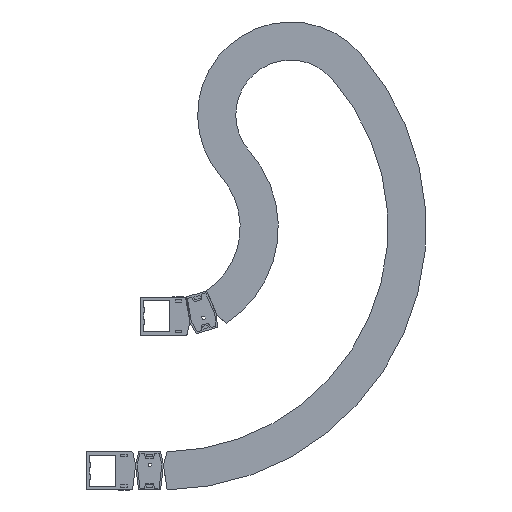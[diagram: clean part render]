
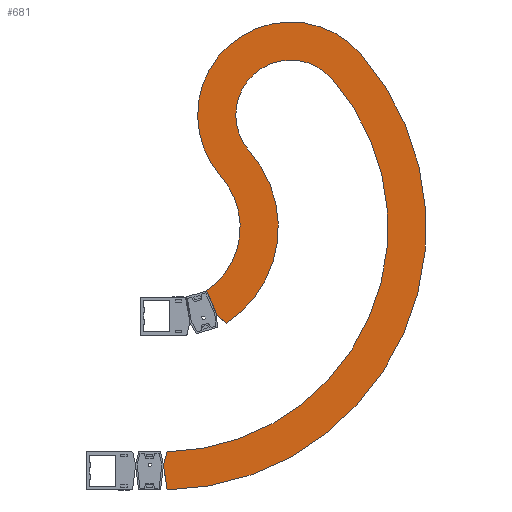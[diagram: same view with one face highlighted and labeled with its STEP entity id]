
A CAD part, front view. The second image highlights one B-rep face of the part: STEP entity #681.
In plain terms, the highlighted planar face has unit normal (0, -1, 0).
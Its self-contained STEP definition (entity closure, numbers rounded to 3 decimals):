
#681 = ADVANCED_FACE( '', ( #1446 ), #1447, .F. );
#1446 = FACE_OUTER_BOUND( '', #2306, .T. );
#1447 = PLANE( '', #2307 );
#2306 = EDGE_LOOP( '', ( #4167, #4168, #4169, #4170, #4171, #4172, #4173, #4174, #4175, #4176 ) );
#2307 = AXIS2_PLACEMENT_3D( '', #4177, #4178, #4179 );
#4167 = ORIENTED_EDGE( '', *, *, #5668, .F. );
#4168 = ORIENTED_EDGE( '', *, *, #5996, .F. );
#4169 = ORIENTED_EDGE( '', *, *, #5997, .F. );
#4170 = ORIENTED_EDGE( '', *, *, #5998, .T. );
#4171 = ORIENTED_EDGE( '', *, *, #5727, .F. );
#4172 = ORIENTED_EDGE( '', *, *, #5999, .F. );
#4173 = ORIENTED_EDGE( '', *, *, #5541, .F. );
#4174 = ORIENTED_EDGE( '', *, *, #6000, .T. );
#4175 = ORIENTED_EDGE( '', *, *, #6001, .T. );
#4176 = ORIENTED_EDGE( '', *, *, #6002, .F. );
#4177 = CARTESIAN_POINT( '', ( 0., -122.5, 0. ) );
#4178 = DIRECTION( '', ( 0., 1., 0. ) );
#4179 = DIRECTION( '', ( 0., 0., 1. ) );
#5541 = EDGE_CURVE( '', #6814, #6815, #6816, .T. );
#5668 = EDGE_CURVE( '', #7017, #7019, #7020, .T. );
#5727 = EDGE_CURVE( '', #7106, #7108, #7109, .T. );
#5996 = EDGE_CURVE( '', #7487, #7017, #7488, .T. );
#5997 = EDGE_CURVE( '', #7489, #7487, #7490, .T. );
#5998 = EDGE_CURVE( '', #7489, #7108, #7491, .T. );
#5999 = EDGE_CURVE( '', #6815, #7106, #7492, .T. );
#6000 = EDGE_CURVE( '', #6814, #7493, #7494, .T. );
#6001 = EDGE_CURVE( '', #7493, #7495, #7496, .T. );
#6002 = EDGE_CURVE( '', #7019, #7495, #7497, .T. );
#6814 = VERTEX_POINT( '', #8586 );
#6815 = VERTEX_POINT( '', #8587 );
#6816 = CIRCLE( '', #8588, 247. );
#7017 = VERTEX_POINT( '', #8863 );
#7019 = VERTEX_POINT( '', #8866 );
#7020 = LINE( '', #8867, #8868 );
#7106 = VERTEX_POINT( '', #8987 );
#7108 = VERTEX_POINT( '', #8990 );
#7109 = LINE( '', #8991, #8992 );
#7487 = VERTEX_POINT( '', #9548 );
#7488 = CIRCLE( '', #9549, 565. );
#7489 = VERTEX_POINT( '', #9550 );
#7490 = CIRCLE( '', #9551, 200. );
#7491 = CIRCLE( '', #9552, 165. );
#7492 = LINE( '', #9553, #9554 );
#7493 = VERTEX_POINT( '', #9555 );
#7494 = CIRCLE( '', #9556, 118. );
#7495 = VERTEX_POINT( '', #9557 );
#7496 = CIRCLE( '', #9558, 483. );
#7497 = LINE( '', #9559, #9560 );
#8586 = CARTESIAN_POINT( '', ( 185.08, -122.5, 163.567 ) );
#8587 = CARTESIAN_POINT( '', ( 135.342, -122.5, -206.619 ) );
#8588 = AXIS2_PLACEMENT_3D( '', #10258, #10259, #10260 );
#8863 = CARTESIAN_POINT( '', ( 7.873, -122.5, -564.945 ) );
#8866 = CARTESIAN_POINT( '', ( 0., -122.5, -511.2 ) );
#8867 = CARTESIAN_POINT( '', ( 7.873, -122.5, -564.945 ) );
#8868 = VECTOR( '', #10405, 1000. );
#8987 = CARTESIAN_POINT( '', ( 114.074, -122.5, -186.71 ) );
#8990 = CARTESIAN_POINT( '', ( 92.675, -122.5, -136.515 ) );
#8991 = CARTESIAN_POINT( '', ( 114.074, -122.5, -186.71 ) );
#8992 = VECTOR( '', #10461, 1000. );
#9548 = CARTESIAN_POINT( '', ( 423.362, -122.5, 374.152 ) );
#9549 = AXIS2_PLACEMENT_3D( '', #10712, #10713, #10714 );
#9550 = CARTESIAN_POINT( '', ( 123.637, -122.5, 109.266 ) );
#9551 = AXIS2_PLACEMENT_3D( '', #10715, #10716, #10717 );
#9552 = AXIS2_PLACEMENT_3D( '', #10718, #10719, #10720 );
#9553 = CARTESIAN_POINT( '', ( 135.342, -122.5, -206.619 ) );
#9554 = VECTOR( '', #10721, 1000. );
#9555 = CARTESIAN_POINT( '', ( 361.918, -122.5, 319.85 ) );
#9556 = AXIS2_PLACEMENT_3D( '', #10722, #10723, #10724 );
#9557 = CARTESIAN_POINT( '', ( 7.82, -122.5, -482.937 ) );
#9558 = AXIS2_PLACEMENT_3D( '', #10725, #10726, #10727 );
#9559 = CARTESIAN_POINT( '', ( 0., -122.5, -511.2 ) );
#9560 = VECTOR( '', #10728, 1000. );
#10258 = CARTESIAN_POINT( '', ( 0., -122.5, 0. ) );
#10259 = DIRECTION( '', ( 0., 1., 0. ) );
#10260 = DIRECTION( '', ( 1., 0., 0. ) );
#10405 = DIRECTION( '', ( -0.145, 0., 0.989 ) );
#10461 = DIRECTION( '', ( -0.392, 0., 0.92 ) );
#10712 = CARTESIAN_POINT( '', ( 0., -122.5, 0. ) );
#10713 = DIRECTION( '', ( 0., 1., 0. ) );
#10714 = DIRECTION( '', ( 1., 0., 0. ) );
#10715 = CARTESIAN_POINT( '', ( 273.499, -122.5, 241.709 ) );
#10716 = DIRECTION( '', ( 0., 1., 0. ) );
#10717 = DIRECTION( '', ( 1., 0., 0. ) );
#10718 = CARTESIAN_POINT( '', ( 0., -122.5, 0. ) );
#10719 = DIRECTION( '', ( 0., 1., 0. ) );
#10720 = DIRECTION( '', ( 1., 0., 0. ) );
#10721 = DIRECTION( '', ( -0.73, 0., 0.683 ) );
#10722 = CARTESIAN_POINT( '', ( 273.499, -122.5, 241.709 ) );
#10723 = DIRECTION( '', ( 0., 1., 0. ) );
#10724 = DIRECTION( '', ( 1., 0., 0. ) );
#10725 = CARTESIAN_POINT( '', ( 0., -122.5, 0. ) );
#10726 = DIRECTION( '', ( 0., 1., 0. ) );
#10727 = DIRECTION( '', ( 1., 0., 0. ) );
#10728 = DIRECTION( '', ( 0.267, 0., 0.964 ) );
